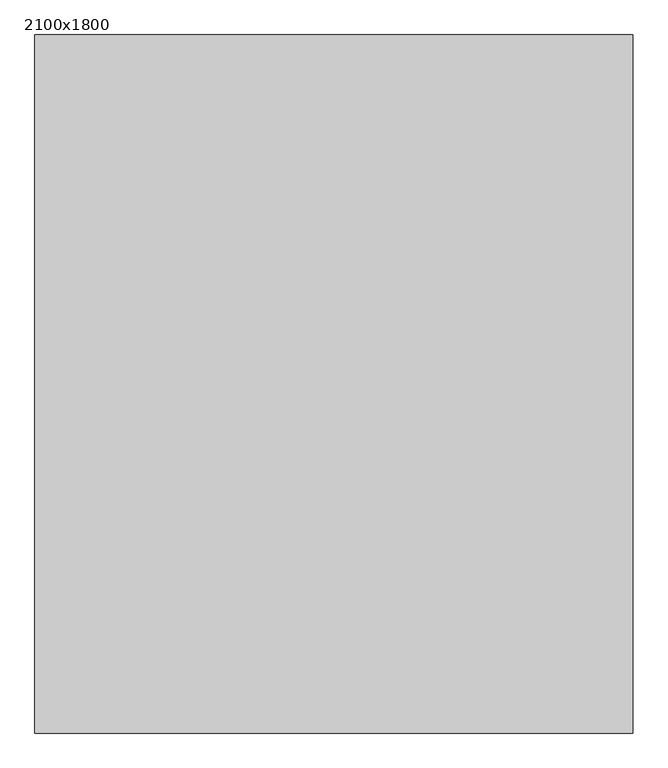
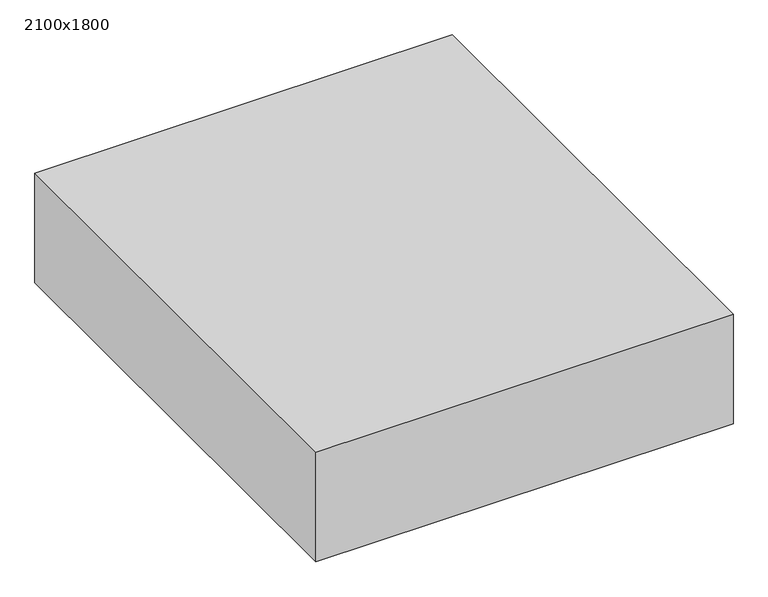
"""IFC4 building model written with IfcOpenShell, lengths in millimetres: furniture geometry, Fu_кровать x2_LEG : 2100x1800."""

from ifc_helpers import new_model, si_unit, origin, origin_with_axes, place, context, project, spatial, polyline, outline, extrude, source, transform, mapped, element, save


def furniture_2100x1800_e54d67c0(model_context):
    return source(origin(), model_context, "Body", "SweptSolid", [
        extrude(outline(polyline([(900.0, 815.5704918), (900.0, -1284.4295082), (-900.0, -1284.4295082), (-900.0, 815.5704918), (900.0, 815.5704918)])), origin_with_axes(), (0.0, 0.0, 1.0), 500.0),
    ])


if __name__ == "__main__":
    model = new_model("IFC4")
    model_context = context("Model", 3, world=origin())
    ifc_project = project(units=[si_unit("LENGTHUNIT", "METRE", prefix="MILLI")], contexts=[model_context])
    site = spatial("IfcSite", under=ifc_project)
    building = spatial("IfcBuilding", under=site)
    placement = place(None, origin())
    furniture_2100x1800_shape = furniture_2100x1800_e54d67c0(model_context)
    element("IfcFurniture", 1, ObjectType="Fu_кровать x2_LEG : 2100x1800", at=placement, inside=building, context=model_context, shape_type="MappedRepresentation", body=[
        mapped(furniture_2100x1800_shape, transform((0.0, 0.0, 0.0), x_axis=(1.0, 0.0, 0.0), y_axis=(0.0, 1.0, 0.0), z_axis=(0.0, 0.0, 1.0))),
    ])
    save(model, "model.ifc")
